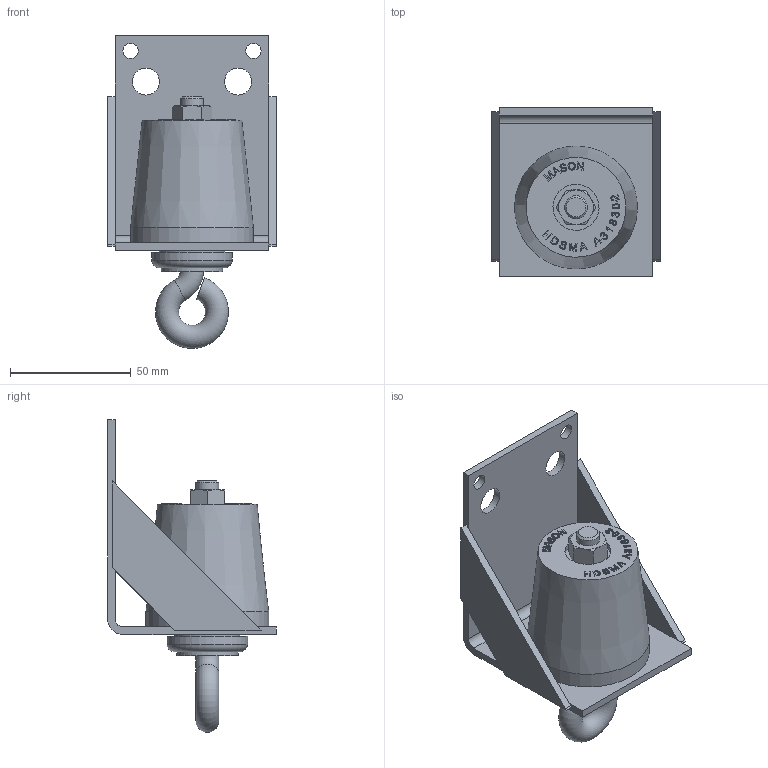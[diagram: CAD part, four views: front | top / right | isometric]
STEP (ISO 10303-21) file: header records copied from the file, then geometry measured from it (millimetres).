
FILE_DESCRIPTION(/* description */ (''),/* implementation_level */ '2;1');
FILE_NAME(/* name */ 'C:\001_Work\Designs\HANGER BOXES\ARCHITECTURAL CEILING HANGERS\WHDSM-A\WHDSM-A.stp',/* time_stamp */ '2016-01-28T14:12:25-05:00',/* author */ ('rramoutar'),/* organization */ ('Mason Industries Inc.'),/* preprocessor_version */ 'ST-DEVELOPER v15.6',/* originating_system */ 'Autodesk Inventor 2015',/* authorisation */ '');
FILE_SCHEMA (('CONFIG_CONTROL_DESIGN'));
Length unit declared in the file: inch
Products named in the file (1): WHDSM-A PER A-31957
Bounding box: 69.85 x 69.85 x 129.37 mm (x, y, z)
Volume: 137444.9 mm3; surface area: 53320.6 mm2
Topology: 7 solids, 7 shells, 344 faces, 884 edges, 581 vertices
Faces by surface type: plane 185, bspline 119, cylinder 21, cone 16, torus 3
Full cylindrical faces by diameter (mm): 6.35 x2, 7.798 x1, 9.525 x1, 10.312 x1, 10.319 x1, 11.112 x2, 11.125 x1, 12.7 x1, 19.05 x1, 25.4 x2, 26.987 x2, 33.337 x1, 38.1 x2, 50.8 x1
Entity records: 11619 total; most frequent: CARTESIAN_POINT 3756, ORIENTED_EDGE 1712, DIRECTION 1107, EDGE_CURVE 856, VERTEX_POINT 579, LINE 533, VECTOR 533, EDGE_LOOP 421
